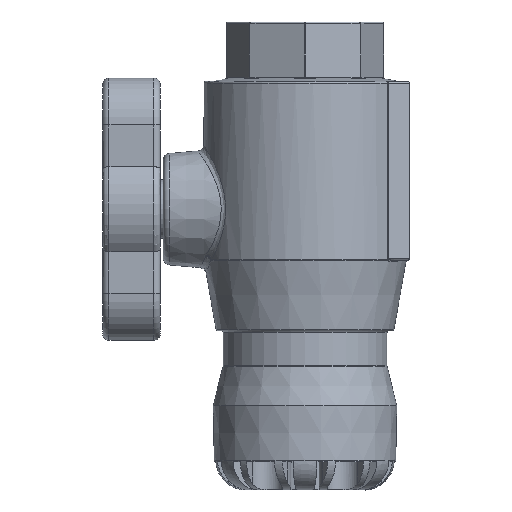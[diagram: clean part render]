
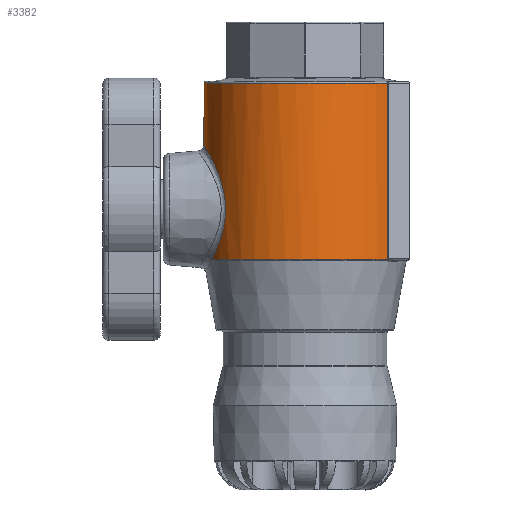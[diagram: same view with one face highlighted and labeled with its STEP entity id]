
A CAD part, left-side view. The second image highlights one B-rep face of the part: STEP entity #3382.
In plain terms, the highlighted cylindrical face has radius 32 mm (diameter 64 mm), a partial arc.
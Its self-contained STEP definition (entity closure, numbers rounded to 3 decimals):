
#129=B_SPLINE_CURVE_WITH_KNOTS('',3,(#6319,#6320,#6321,#6322,#6323,#6324,
#6325,#6326,#6327,#6328,#6329,#6330,#6331,#6332,#6333,#6334,#6335,#6336,
#6337,#6338,#6339,#6340,#6341),.UNSPECIFIED.,.F.,.F.,(4,1,1,1,1,1,1,1,1,
1,1,1,1,1,1,1,1,1,1,1,4),(-10.566,-10.377,-9.811,
-9.057,-8.302,-8.208,-7.925,
-7.547,-6.793,-6.226,-6.038,
-5.031,-4.528,-4.025,-3.396,
-3.019,-2.264,-1.509,-1.321,
-0.755,0.),.UNSPECIFIED.);
#131=B_SPLINE_CURVE_WITH_KNOTS('',3,(#6369,#6370,#6371,#6372),
 .UNSPECIFIED.,.F.,.F.,(4,4),(0.,0.051),.UNSPECIFIED.);
#132=B_SPLINE_CURVE_WITH_KNOTS('',3,(#6380,#6381,#6382,#6383),
 .UNSPECIFIED.,.F.,.F.,(4,4),(-0.051,0.),.UNSPECIFIED.);
#215=CYLINDRICAL_SURFACE('',#3716,32.);
#438=FACE_OUTER_BOUND('',#653,.T.);
#653=EDGE_LOOP('',(#2681,#2682,#2683,#2684,#2685,#2686,#2687,#2688));
#877=LINE('',#6374,#1047);
#878=LINE('',#6378,#1048);
#1047=VECTOR('',#4446,10.);
#1048=VECTOR('',#4449,10.);
#1227=CIRCLE('',#3717,32.);
#1228=CIRCLE('',#3718,32.);
#1229=CIRCLE('',#3719,32.);
#1526=VERTEX_POINT('',#6105);
#1532=VERTEX_POINT('',#6198);
#1533=VERTEX_POINT('',#6366);
#1534=VERTEX_POINT('',#6368);
#1535=VERTEX_POINT('',#6373);
#1536=VERTEX_POINT('',#6375);
#1537=VERTEX_POINT('',#6377);
#1538=VERTEX_POINT('',#6379);
#1947=EDGE_CURVE('',#1526,#1532,#129,.T.);
#1949=EDGE_CURVE('',#1533,#1526,#1227,.T.);
#1950=EDGE_CURVE('',#1534,#1533,#131,.T.);
#1951=EDGE_CURVE('',#1535,#1534,#877,.T.);
#1952=EDGE_CURVE('',#1536,#1535,#1228,.T.);
#1953=EDGE_CURVE('',#1537,#1536,#878,.T.);
#1954=EDGE_CURVE('',#1538,#1537,#132,.T.);
#1955=EDGE_CURVE('',#1532,#1538,#1229,.T.);
#2681=ORIENTED_EDGE('',*,*,#1947,.F.);
#2682=ORIENTED_EDGE('',*,*,#1949,.F.);
#2683=ORIENTED_EDGE('',*,*,#1950,.F.);
#2684=ORIENTED_EDGE('',*,*,#1951,.F.);
#2685=ORIENTED_EDGE('',*,*,#1952,.F.);
#2686=ORIENTED_EDGE('',*,*,#1953,.F.);
#2687=ORIENTED_EDGE('',*,*,#1954,.F.);
#2688=ORIENTED_EDGE('',*,*,#1955,.F.);
#3382=ADVANCED_FACE('',(#438),#215,.T.);
#3716=AXIS2_PLACEMENT_3D('',#6365,#4442,#4443);
#3717=AXIS2_PLACEMENT_3D('',#6367,#4444,#4445);
#3718=AXIS2_PLACEMENT_3D('',#6376,#4447,#4448);
#3719=AXIS2_PLACEMENT_3D('',#6384,#4450,#4451);
#4442=DIRECTION('center_axis',(0.,0.,-1.));
#4443=DIRECTION('ref_axis',(0.,1.,0.));
#4444=DIRECTION('center_axis',(0.,0.,-1.));
#4445=DIRECTION('ref_axis',(-0.99,0.142,0.));
#4446=DIRECTION('',(0.,0.,-1.));
#4447=DIRECTION('center_axis',(0.,0.,1.));
#4448=DIRECTION('ref_axis',(0.,1.,0.));
#4449=DIRECTION('',(0.,0.,1.));
#4450=DIRECTION('center_axis',(0.,0.,
-1.));
#4451=DIRECTION('ref_axis',(-0.99,-0.142,0.));
#6105=CARTESIAN_POINT('',(-12.241,29.566,-75.235));
#6198=CARTESIAN_POINT('',(12.241,29.566,-75.235));
#6319=CARTESIAN_POINT('Ctrl Pts',(-12.241,29.566,-75.235));
#6320=CARTESIAN_POINT('Ctrl Pts',(-12.688,29.381,-74.872));
#6321=CARTESIAN_POINT('Ctrl Pts',(-14.413,28.618,-73.342));
#6322=CARTESIAN_POINT('Ctrl Pts',(-17.315,27.009,-69.725));
#6323=CARTESIAN_POINT('Ctrl Pts',(-19.837,25.126,-63.499));
#6324=CARTESIAN_POINT('Ctrl Pts',(-19.961,25.013,-57.997));
#6325=CARTESIAN_POINT('Ctrl Pts',(-19.274,25.547,-54.335));
#6326=CARTESIAN_POINT('Ctrl Pts',(-18.615,26.038,-51.968));
#6327=CARTESIAN_POINT('Ctrl Pts',(-16.752,27.321,-47.885));
#6328=CARTESIAN_POINT('Ctrl Pts',(-13.447,29.189,-43.806));
#6329=CARTESIAN_POINT('Ctrl Pts',(-9.588,30.59,-41.219));
#6330=CARTESIAN_POINT('Ctrl Pts',(-4.613,31.844,-39.022));
#6331=CARTESIAN_POINT('Ctrl Pts',(0.852,32.271,-38.332));
#6332=CARTESIAN_POINT('Ctrl Pts',(6.991,31.331,-39.902));
#6333=CARTESIAN_POINT('Ctrl Pts',(11.449,30.003,-42.272));
#6334=CARTESIAN_POINT('Ctrl Pts',(14.846,28.411,-45.433));
#6335=CARTESIAN_POINT('Ctrl Pts',(17.902,26.593,-49.93));
#6336=CARTESIAN_POINT('Ctrl Pts',(19.994,24.993,-55.727));
#6337=CARTESIAN_POINT('Ctrl Pts',(19.89,25.073,-61.555));
#6338=CARTESIAN_POINT('Ctrl Pts',(18.683,25.992,-66.333));
#6339=CARTESIAN_POINT('Ctrl Pts',(16.713,27.373,-70.721));
#6340=CARTESIAN_POINT('Ctrl Pts',(14.028,28.826,-73.783));
#6341=CARTESIAN_POINT('Ctrl Pts',(12.241,29.566,-75.235));
#6365=CARTESIAN_POINT('Origin',(0.,0.,-47.035));
#6366=CARTESIAN_POINT('',(-18.48,-26.124,-75.235));
#6367=CARTESIAN_POINT('Origin',(0.,0.,-75.235));
#6368=CARTESIAN_POINT('',(-18.636,-26.014,-74.778));
#6369=CARTESIAN_POINT('Ctrl Pts',(-18.636,-26.014,-74.778));
#6370=CARTESIAN_POINT('Ctrl Pts',(-18.636,-26.014,-74.948));
#6371=CARTESIAN_POINT('Ctrl Pts',(-18.571,-26.06,-75.109));
#6372=CARTESIAN_POINT('Ctrl Pts',(-18.48,-26.124,-75.235));
#6373=CARTESIAN_POINT('',(-18.636,-26.014,-19.292));
#6374=CARTESIAN_POINT('',(-18.636,-26.014,-47.035));
#6375=CARTESIAN_POINT('',(18.636,-26.014,-19.292));
#6376=CARTESIAN_POINT('Origin',(0.,0.,-19.292));
#6377=CARTESIAN_POINT('',(18.636,-26.014,-74.778));
#6378=CARTESIAN_POINT('',(18.636,-26.014,-47.035));
#6379=CARTESIAN_POINT('',(18.48,-26.124,-75.235));
#6380=CARTESIAN_POINT('Ctrl Pts',(18.48,-26.124,-75.235));
#6381=CARTESIAN_POINT('Ctrl Pts',(18.571,-26.06,-75.109));
#6382=CARTESIAN_POINT('Ctrl Pts',(18.636,-26.014,-74.948));
#6383=CARTESIAN_POINT('Ctrl Pts',(18.636,-26.014,-74.778));
#6384=CARTESIAN_POINT('Origin',(0.,0.,
-75.235));
